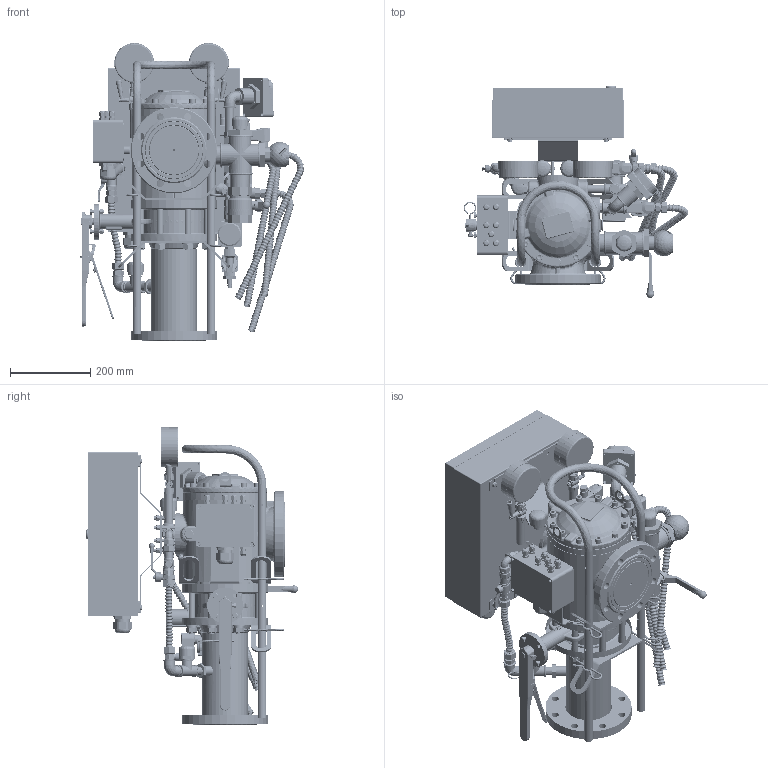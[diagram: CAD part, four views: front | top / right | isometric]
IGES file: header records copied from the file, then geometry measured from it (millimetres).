
Start section: File generated by T-FLEX CAD Version (null)
Global section: file name: 100.igs; native system: T-FLEX CAD; date: 211014.104108; units: millimetre
Bounding box: 559.63 x 529.58 x 743.5 mm (x, y, z)
Volume: 22690141.3 mm3; surface area: 4075801.7 mm2
Topology: 585 solids, 611 shells, 15969 faces, 38737 edges, 23118 vertices
Faces by surface type: plane 5199, cylinder 4909, bspline 2248, cone 1669, revolution 1253, sphere 691
Full cylindrical faces by diameter (mm): 49 x1
